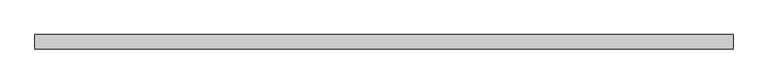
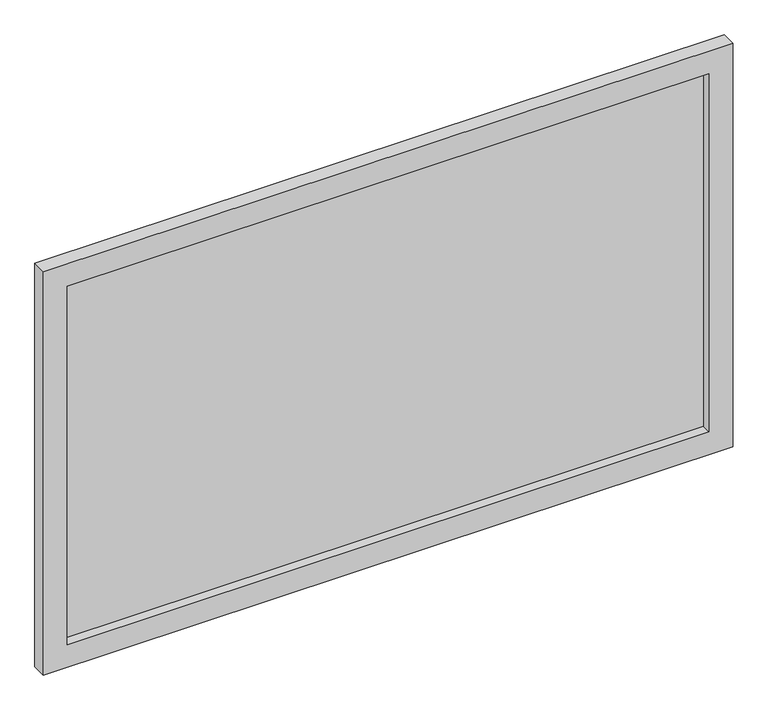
"""IFC4 building model written with IfcOpenShell, lengths in millimetres: furniture geometry, Painting_10066 : Painting_10066."""

from ifc_helpers import new_model, si_unit, frame, origin, place, context, project, spatial, polyline, outline, extrude, source, transform, mapped, element, save


def furniture_831f9124(model_context):
    return source(origin(), model_context, "Body", "SweptSolid", [
        extrude(outline(polyline([(1395.3572422, -10.0), (50.0, -10.0), (50.0, 0.0), (1395.3572422, 0.0), (1395.3572422, -10.0)])), frame((0.0, 0.0, 946.0375989), z_axis=(0.0, 0.0, 1.0), x_axis=(1.0, 0.0, 0.0)), (0.0, 0.0, 1.0), 793.6562409),
        extrude(outline(polyline([(896.0375989, 1445.3572422), (1789.6938399, 1445.3572422), (1789.6938399, 0.0), (896.0375989, 0.0), (896.0375989, 1445.3572422)]), holes=[polyline([(946.0375989, 1395.3572422), (946.0375989, 50.0), (1739.6938399, 50.0), (1739.6938399, 1395.3572422), (946.0375989, 1395.3572422)])]), frame((0.0, -30.0, 0.0), z_axis=(0.0, 1.0, 0.0), x_axis=(0.0, 0.0, 1.0)), (0.0, 0.0, 1.0), 30.0),
    ])


if __name__ == "__main__":
    model = new_model("IFC4")
    model_context = context("Model", 3, world=origin())
    ifc_project = project(units=[si_unit("LENGTHUNIT", "METRE", prefix="MILLI")], contexts=[model_context])
    site = spatial("IfcSite", under=ifc_project)
    building = spatial("IfcBuilding", under=site)
    placement = place(None, origin())
    furniture_shape = furniture_831f9124(model_context)
    element("IfcFurniture", 1, ObjectType="Painting_10066 : Painting_10066", at=placement, inside=building, context=model_context, shape_type="MappedRepresentation", body=[
        mapped(furniture_shape, transform((0.0, 0.0, 0.0), x_axis=(1.0, 0.0, 0.0), y_axis=(0.0, 1.0, 0.0), z_axis=(0.0, 0.0, 1.0))),
    ])
    save(model, "model.ifc")
